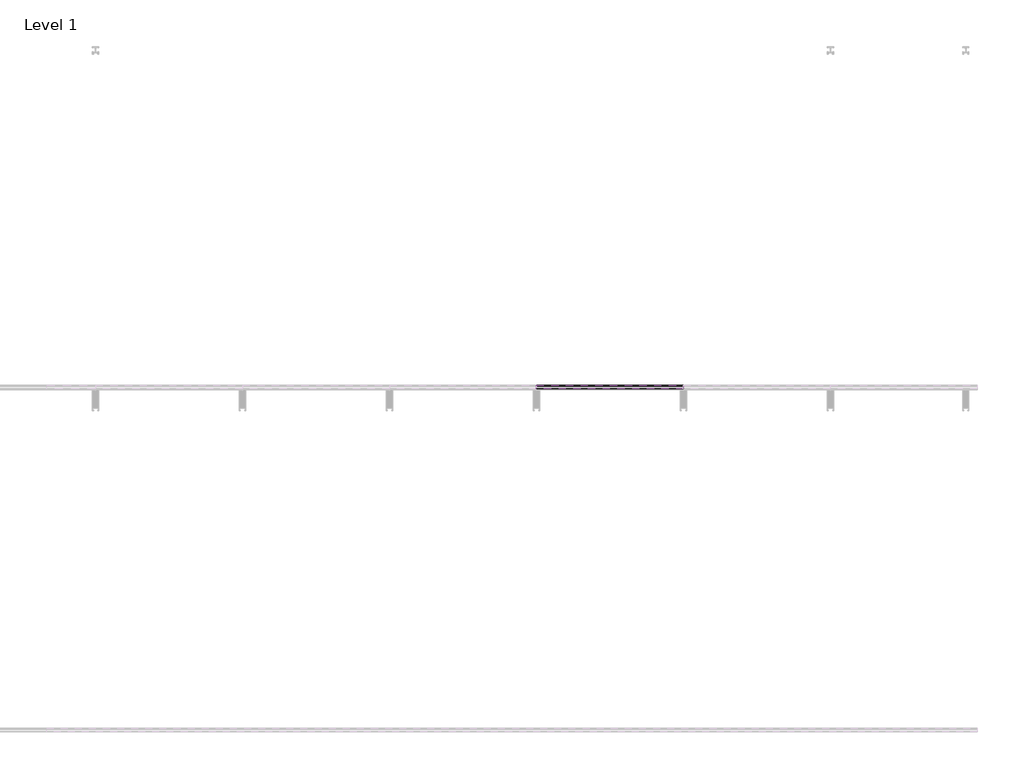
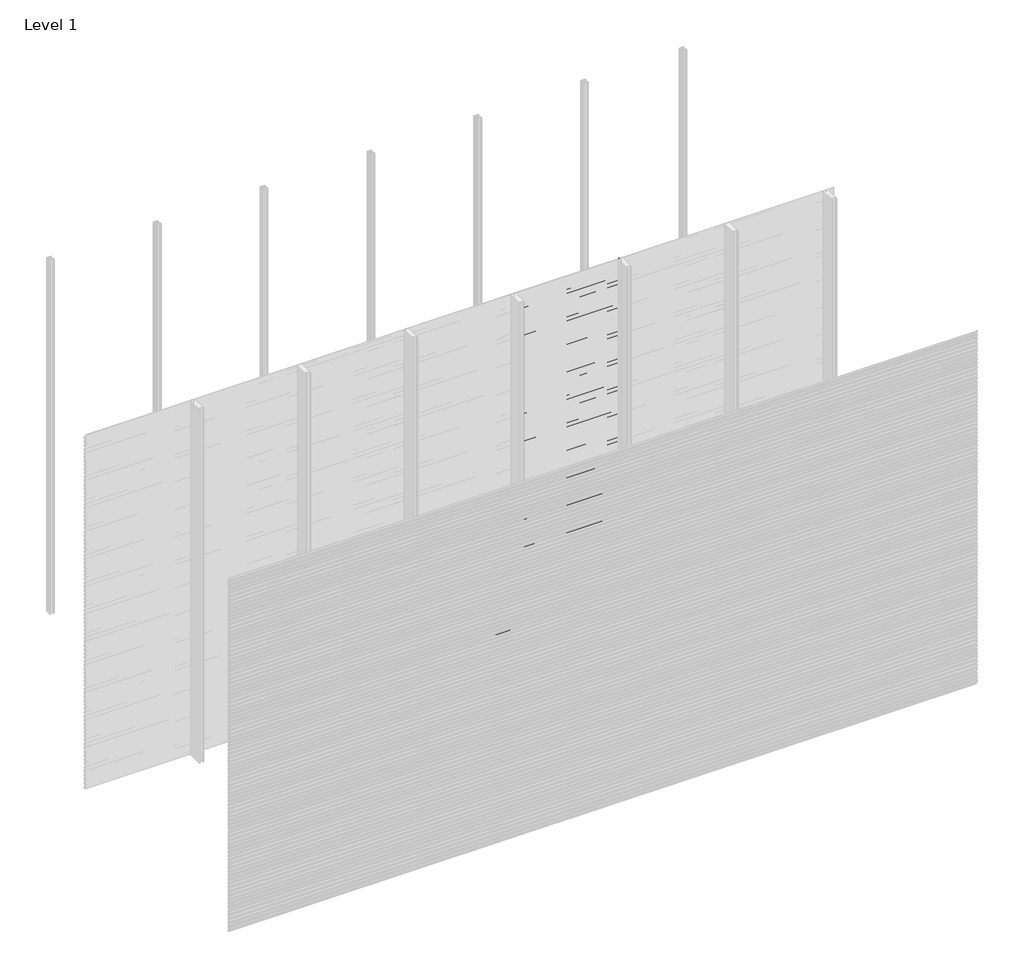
# One storey, part 19 of 96: 76 proxies.
"""IFC4 building model written with IfcOpenShell, lengths in millimetres."""

from ifc_helpers import new_model, si_unit, frame, origin, place, context, project, spatial, polyline, outline, extrude, element, save

model = new_model("IFC4")

# Units and contexts
model_context = context("Model", 3, world=origin())
ifc_project = project(units=[si_unit("LENGTHUNIT", "METRE", prefix="MILLI")], contexts=[model_context])

# Site, building, storey
site = spatial("IfcSite", under=ifc_project)
building = spatial("IfcBuilding", under=site)
storey = spatial("IfcBuildingStorey", under=building, Name="Level 1", Elevation=0.0)

# Proxies
placement = place(None, origin())
element("IfcBuildingElementProxy", 1, Name="Wall Sweeps", at=placement, inside=storey, context=model_context, shape_type="SweptSolid", body=[
    extrude(outline(polyline([(-47977.6, 141.2655033), (-47977.6, 126.9779188), (-47982.4114965, 124.2), (-47982.4114965, 125.4701706), (-47978.85, 127.5264016), (-47978.85, 140.5437382), (-47998.0, 151.6000799), (-47998.0, 166.5), (-47996.75, 166.5), (-47996.75, 152.3217609), (-47977.6, 141.2655033)])), frame((2571.4285714, 0.0, 0.0), z_axis=(1.0, 0.0, 0.0), x_axis=(0.0, 1.0, 0.0)), (0.0, 0.0, 1.0), 857.1428571),
])
element("IfcBuildingElementProxy", 2, Name="Wall Sweeps", at=placement, inside=storey, context=model_context, shape_type="SweptSolid", body=[
    extrude(outline(polyline([(-47977.6, 107.9655033), (-47977.6, 93.6779188), (-47982.4114965, 90.9), (-47982.4114965, 92.1701706), (-47978.85, 94.2264016), (-47978.85, 107.2437382), (-47998.0, 118.3000799), (-47998.0, 133.2), (-47996.75, 133.2), (-47996.75, 119.0217609), (-47977.6, 107.9655033)])), frame((2571.4285714, 0.0, 0.0), z_axis=(1.0, 0.0, 0.0), x_axis=(0.0, 1.0, 0.0)), (0.0, 0.0, 1.0), 857.1428571),
])
element("IfcBuildingElementProxy", 3, Name="Wall Sweeps", at=placement, inside=storey, context=model_context, shape_type="SweptSolid", body=[
    extrude(outline(polyline([(-47977.6, 74.6655033), (-47977.6, 60.3779188), (-47982.4114965, 57.6), (-47982.4114965, 58.8701706), (-47978.85, 60.9264016), (-47978.85, 73.9437382), (-47998.0, 85.0000799), (-47998.0, 99.9), (-47996.75, 99.9), (-47996.75, 85.7217609), (-47977.6, 74.6655033)])), frame((2571.4285714, 0.0, 0.0), z_axis=(1.0, 0.0, 0.0), x_axis=(0.0, 1.0, 0.0)), (0.0, 0.0, 1.0), 857.1428571),
])
element("IfcBuildingElementProxy", 4, Name="Wall Sweeps", at=placement, inside=storey, context=model_context, shape_type="SweptSolid", body=[
    extrude(outline(polyline([(-47977.6, 41.3655033), (-47977.6, 27.0779188), (-47982.4114965, 24.3), (-47982.4114965, 25.5701706), (-47978.85, 27.6264016), (-47978.85, 40.6437382), (-47998.0, 51.7000799), (-47998.0, 66.6), (-47996.75, 66.6), (-47996.75, 52.4217609), (-47977.6, 41.3655033)])), frame((2571.4285714, 0.0, 0.0), z_axis=(1.0, 0.0, 0.0), x_axis=(0.0, 1.0, 0.0)), (0.0, 0.0, 1.0), 857.1428571),
])
element("IfcBuildingElementProxy", 5, Name="Wall Sweeps", at=placement, inside=storey, context=model_context, shape_type="SweptSolid", body=[
    extrude(outline(polyline([(-47977.6, 8.0655033), (-47977.6, -6.2220812), (-47982.4114965, -9.0), (-47982.4114965, -7.7298294), (-47978.85, -5.6735984), (-47978.85, 7.3437382), (-47998.0, 18.4000799), (-47998.0, 33.3), (-47996.75, 33.3), (-47996.75, 19.1217609), (-47977.6, 8.0655033)])), frame((2571.4285714, 0.0, 0.0), z_axis=(1.0, 0.0, 0.0), x_axis=(0.0, 1.0, 0.0)), (0.0, 0.0, 1.0), 857.1428571),
])
element("IfcBuildingElementProxy", 6, Name="Wall Sweeps", at=placement, inside=storey, context=model_context, shape_type="SweptSolid", body=[
    extrude(outline(polyline([(-47977.6, 2971.7655033), (-47977.6, 2957.4779188), (-47982.4114965, 2954.7), (-47982.4114965, 2955.9701706), (-47978.85, 2958.0264016), (-47978.85, 2971.0437382), (-47998.0, 2982.1000799), (-47998.0, 2997.0), (-47996.75, 2997.0), (-47996.75, 2982.8217609), (-47977.6, 2971.7655033)])), frame((3428.5714286, 0.0, 0.0), z_axis=(1.0, 0.0, 0.0), x_axis=(0.0, 1.0, 0.0)), (0.0, 0.0, 1.0), 857.1428571),
])
element("IfcBuildingElementProxy", 7, Name="Wall Sweeps", at=placement, inside=storey, context=model_context, shape_type="SweptSolid", body=[
    extrude(outline(polyline([(-47977.6, 2938.4655033), (-47977.6, 2924.1779188), (-47982.4114965, 2921.4), (-47982.4114965, 2922.6701706), (-47978.85, 2924.7264016), (-47978.85, 2937.7437382), (-47998.0, 2948.8000799), (-47998.0, 2963.7), (-47996.75, 2963.7), (-47996.75, 2949.5217609), (-47977.6, 2938.4655033)])), frame((3428.5714286, 0.0, 0.0), z_axis=(1.0, 0.0, 0.0), x_axis=(0.0, 1.0, 0.0)), (0.0, 0.0, 1.0), 857.1428571),
])
element("IfcBuildingElementProxy", 8, Name="Wall Sweeps", at=placement, inside=storey, context=model_context, shape_type="SweptSolid", body=[
    extrude(outline(polyline([(-47977.6, 2905.1655033), (-47977.6, 2890.8779188), (-47982.4114965, 2888.1), (-47982.4114965, 2889.3701706), (-47978.85, 2891.4264016), (-47978.85, 2904.4437382), (-47998.0, 2915.5000799), (-47998.0, 2930.4), (-47996.75, 2930.4), (-47996.75, 2916.2217609), (-47977.6, 2905.1655033)])), frame((3428.5714286, 0.0, 0.0), z_axis=(1.0, 0.0, 0.0), x_axis=(0.0, 1.0, 0.0)), (0.0, 0.0, 1.0), 857.1428571),
])
element("IfcBuildingElementProxy", 9, Name="Wall Sweeps", at=placement, inside=storey, context=model_context, shape_type="SweptSolid", body=[
    extrude(outline(polyline([(-47977.6, 2871.8655033), (-47977.6, 2857.5779188), (-47982.4114965, 2854.8), (-47982.4114965, 2856.0701706), (-47978.85, 2858.1264016), (-47978.85, 2871.1437382), (-47998.0, 2882.2000799), (-47998.0, 2897.1), (-47996.75, 2897.1), (-47996.75, 2882.9217609), (-47977.6, 2871.8655033)])), frame((3428.5714286, 0.0, 0.0), z_axis=(1.0, 0.0, 0.0), x_axis=(0.0, 1.0, 0.0)), (0.0, 0.0, 1.0), 857.1428571),
])
element("IfcBuildingElementProxy", 10, Name="Wall Sweeps", at=placement, inside=storey, context=model_context, shape_type="SweptSolid", body=[
    extrude(outline(polyline([(-47977.6, 2838.5655033), (-47977.6, 2824.2779188), (-47982.4114965, 2821.5), (-47982.4114965, 2822.7701706), (-47978.85, 2824.8264016), (-47978.85, 2837.8437382), (-47998.0, 2848.9000799), (-47998.0, 2863.8), (-47996.75, 2863.8), (-47996.75, 2849.6217609), (-47977.6, 2838.5655033)])), frame((3428.5714286, 0.0, 0.0), z_axis=(1.0, 0.0, 0.0), x_axis=(0.0, 1.0, 0.0)), (0.0, 0.0, 1.0), 857.1428571),
])
element("IfcBuildingElementProxy", 11, Name="Wall Sweeps", at=placement, inside=storey, context=model_context, shape_type="SweptSolid", body=[
    extrude(outline(polyline([(-47977.6, 2805.2655033), (-47977.6, 2790.9779188), (-47982.4114965, 2788.2), (-47982.4114965, 2789.4701706), (-47978.85, 2791.5264016), (-47978.85, 2804.5437382), (-47998.0, 2815.6000799), (-47998.0, 2830.5), (-47996.75, 2830.5), (-47996.75, 2816.3217609), (-47977.6, 2805.2655033)])), frame((3428.5714286, 0.0, 0.0), z_axis=(1.0, 0.0, 0.0), x_axis=(0.0, 1.0, 0.0)), (0.0, 0.0, 1.0), 857.1428571),
])
element("IfcBuildingElementProxy", 12, Name="Wall Sweeps", at=placement, inside=storey, context=model_context, shape_type="SweptSolid", body=[
    extrude(outline(polyline([(-47977.6, 2771.9655033), (-47977.6, 2757.6779188), (-47982.4114965, 2754.9), (-47982.4114965, 2756.1701706), (-47978.85, 2758.2264016), (-47978.85, 2771.2437382), (-47998.0, 2782.3000799), (-47998.0, 2797.2), (-47996.75, 2797.2), (-47996.75, 2783.0217609), (-47977.6, 2771.9655033)])), frame((3428.5714286, 0.0, 0.0), z_axis=(1.0, 0.0, 0.0), x_axis=(0.0, 1.0, 0.0)), (0.0, 0.0, 1.0), 857.1428571),
])
element("IfcBuildingElementProxy", 13, Name="Wall Sweeps", at=placement, inside=storey, context=model_context, shape_type="SweptSolid", body=[
    extrude(outline(polyline([(-47977.6, 2738.6655033), (-47977.6, 2724.3779188), (-47982.4114965, 2721.6), (-47982.4114965, 2722.8701706), (-47978.85, 2724.9264016), (-47978.85, 2737.9437382), (-47998.0, 2749.0000799), (-47998.0, 2763.9), (-47996.75, 2763.9), (-47996.75, 2749.7217609), (-47977.6, 2738.6655033)])), frame((3428.5714286, 0.0, 0.0), z_axis=(1.0, 0.0, 0.0), x_axis=(0.0, 1.0, 0.0)), (0.0, 0.0, 1.0), 857.1428571),
])
element("IfcBuildingElementProxy", 14, Name="Wall Sweeps", at=placement, inside=storey, context=model_context, shape_type="SweptSolid", body=[
    extrude(outline(polyline([(-47977.6, 2705.3655033), (-47977.6, 2691.0779188), (-47982.4114965, 2688.3), (-47982.4114965, 2689.5701706), (-47978.85, 2691.6264016), (-47978.85, 2704.6437382), (-47998.0, 2715.7000799), (-47998.0, 2730.6), (-47996.75, 2730.6), (-47996.75, 2716.4217609), (-47977.6, 2705.3655033)])), frame((3428.5714286, 0.0, 0.0), z_axis=(1.0, 0.0, 0.0), x_axis=(0.0, 1.0, 0.0)), (0.0, 0.0, 1.0), 857.1428571),
])
element("IfcBuildingElementProxy", 15, Name="Wall Sweeps", at=placement, inside=storey, context=model_context, shape_type="SweptSolid", body=[
    extrude(outline(polyline([(-47977.6, 2672.0655033), (-47977.6, 2657.7779188), (-47982.4114965, 2655.0), (-47982.4114965, 2656.2701706), (-47978.85, 2658.3264016), (-47978.85, 2671.3437382), (-47998.0, 2682.4000799), (-47998.0, 2697.3), (-47996.75, 2697.3), (-47996.75, 2683.1217609), (-47977.6, 2672.0655033)])), frame((3428.5714286, 0.0, 0.0), z_axis=(1.0, 0.0, 0.0), x_axis=(0.0, 1.0, 0.0)), (0.0, 0.0, 1.0), 857.1428571),
])
element("IfcBuildingElementProxy", 16, Name="Wall Sweeps", at=placement, inside=storey, context=model_context, shape_type="SweptSolid", body=[
    extrude(outline(polyline([(-47977.6, 2638.7655033), (-47977.6, 2624.4779188), (-47982.4114965, 2621.7), (-47982.4114965, 2622.9701706), (-47978.85, 2625.0264016), (-47978.85, 2638.0437382), (-47998.0, 2649.1000799), (-47998.0, 2664.0), (-47996.75, 2664.0), (-47996.75, 2649.8217609), (-47977.6, 2638.7655033)])), frame((3428.5714286, 0.0, 0.0), z_axis=(1.0, 0.0, 0.0), x_axis=(0.0, 1.0, 0.0)), (0.0, 0.0, 1.0), 857.1428571),
])
element("IfcBuildingElementProxy", 17, Name="Wall Sweeps", at=placement, inside=storey, context=model_context, shape_type="SweptSolid", body=[
    extrude(outline(polyline([(-47977.6, 2605.4655033), (-47977.6, 2591.1779188), (-47982.4114965, 2588.4), (-47982.4114965, 2589.6701706), (-47978.85, 2591.7264016), (-47978.85, 2604.7437382), (-47998.0, 2615.8000799), (-47998.0, 2630.7), (-47996.75, 2630.7), (-47996.75, 2616.5217609), (-47977.6, 2605.4655033)])), frame((3428.5714286, 0.0, 0.0), z_axis=(1.0, 0.0, 0.0), x_axis=(0.0, 1.0, 0.0)), (0.0, 0.0, 1.0), 857.1428571),
])
element("IfcBuildingElementProxy", 18, Name="Wall Sweeps", at=placement, inside=storey, context=model_context, shape_type="SweptSolid", body=[
    extrude(outline(polyline([(-47977.6, 2572.1655033), (-47977.6, 2557.8779188), (-47982.4114965, 2555.1), (-47982.4114965, 2556.3701706), (-47978.85, 2558.4264016), (-47978.85, 2571.4437382), (-47998.0, 2582.5000799), (-47998.0, 2597.4), (-47996.75, 2597.4), (-47996.75, 2583.2217609), (-47977.6, 2572.1655033)])), frame((3428.5714286, 0.0, 0.0), z_axis=(1.0, 0.0, 0.0), x_axis=(0.0, 1.0, 0.0)), (0.0, 0.0, 1.0), 857.1428571),
])
element("IfcBuildingElementProxy", 19, Name="Wall Sweeps", at=placement, inside=storey, context=model_context, shape_type="SweptSolid", body=[
    extrude(outline(polyline([(-47977.6, 2538.8655033), (-47977.6, 2524.5779188), (-47982.4114965, 2521.8), (-47982.4114965, 2523.0701706), (-47978.85, 2525.1264016), (-47978.85, 2538.1437382), (-47998.0, 2549.2000799), (-47998.0, 2564.1), (-47996.75, 2564.1), (-47996.75, 2549.9217609), (-47977.6, 2538.8655033)])), frame((3428.5714286, 0.0, 0.0), z_axis=(1.0, 0.0, 0.0), x_axis=(0.0, 1.0, 0.0)), (0.0, 0.0, 1.0), 857.1428571),
])
element("IfcBuildingElementProxy", 20, Name="Wall Sweeps", at=placement, inside=storey, context=model_context, shape_type="SweptSolid", body=[
    extrude(outline(polyline([(-47977.6, 2505.5655033), (-47977.6, 2491.2779188), (-47982.4114965, 2488.5), (-47982.4114965, 2489.7701706), (-47978.85, 2491.8264016), (-47978.85, 2504.8437382), (-47998.0, 2515.9000799), (-47998.0, 2530.8), (-47996.75, 2530.8), (-47996.75, 2516.6217609), (-47977.6, 2505.5655033)])), frame((3428.5714286, 0.0, 0.0), z_axis=(1.0, 0.0, 0.0), x_axis=(0.0, 1.0, 0.0)), (0.0, 0.0, 1.0), 857.1428571),
])
element("IfcBuildingElementProxy", 21, Name="Wall Sweeps", at=placement, inside=storey, context=model_context, shape_type="SweptSolid", body=[
    extrude(outline(polyline([(-47977.6, 2472.2655033), (-47977.6, 2457.9779188), (-47982.4114965, 2455.2), (-47982.4114965, 2456.4701706), (-47978.85, 2458.5264016), (-47978.85, 2471.5437382), (-47998.0, 2482.6000799), (-47998.0, 2497.5), (-47996.75, 2497.5), (-47996.75, 2483.3217609), (-47977.6, 2472.2655033)])), frame((3428.5714286, 0.0, 0.0), z_axis=(1.0, 0.0, 0.0), x_axis=(0.0, 1.0, 0.0)), (0.0, 0.0, 1.0), 857.1428571),
])
element("IfcBuildingElementProxy", 22, Name="Wall Sweeps", at=placement, inside=storey, context=model_context, shape_type="SweptSolid", body=[
    extrude(outline(polyline([(-47977.6, 2438.9655033), (-47977.6, 2424.6779188), (-47982.4114965, 2421.9), (-47982.4114965, 2423.1701706), (-47978.85, 2425.2264016), (-47978.85, 2438.2437382), (-47998.0, 2449.3000799), (-47998.0, 2464.2), (-47996.75, 2464.2), (-47996.75, 2450.0217609), (-47977.6, 2438.9655033)])), frame((3428.5714286, 0.0, 0.0), z_axis=(1.0, 0.0, 0.0), x_axis=(0.0, 1.0, 0.0)), (0.0, 0.0, 1.0), 857.1428571),
])
element("IfcBuildingElementProxy", 23, Name="Wall Sweeps", at=placement, inside=storey, context=model_context, shape_type="SweptSolid", body=[
    extrude(outline(polyline([(-47977.6, 2405.6655033), (-47977.6, 2391.3779188), (-47982.4114965, 2388.6), (-47982.4114965, 2389.8701706), (-47978.85, 2391.9264016), (-47978.85, 2404.9437382), (-47998.0, 2416.0000799), (-47998.0, 2430.9), (-47996.75, 2430.9), (-47996.75, 2416.7217609), (-47977.6, 2405.6655033)])), frame((3428.5714286, 0.0, 0.0), z_axis=(1.0, 0.0, 0.0), x_axis=(0.0, 1.0, 0.0)), (0.0, 0.0, 1.0), 857.1428571),
])
element("IfcBuildingElementProxy", 24, Name="Wall Sweeps", at=placement, inside=storey, context=model_context, shape_type="SweptSolid", body=[
    extrude(outline(polyline([(-47977.6, 2372.3655033), (-47977.6, 2358.0779188), (-47982.4114965, 2355.3), (-47982.4114965, 2356.5701706), (-47978.85, 2358.6264016), (-47978.85, 2371.6437382), (-47998.0, 2382.7000799), (-47998.0, 2397.6), (-47996.75, 2397.6), (-47996.75, 2383.4217609), (-47977.6, 2372.3655033)])), frame((3428.5714286, 0.0, 0.0), z_axis=(1.0, 0.0, 0.0), x_axis=(0.0, 1.0, 0.0)), (0.0, 0.0, 1.0), 857.1428571),
])
element("IfcBuildingElementProxy", 25, Name="Wall Sweeps", at=placement, inside=storey, context=model_context, shape_type="SweptSolid", body=[
    extrude(outline(polyline([(-47977.6, 2339.0655033), (-47977.6, 2324.7779188), (-47982.4114965, 2322.0), (-47982.4114965, 2323.2701706), (-47978.85, 2325.3264016), (-47978.85, 2338.3437382), (-47998.0, 2349.4000799), (-47998.0, 2364.3), (-47996.75, 2364.3), (-47996.75, 2350.1217609), (-47977.6, 2339.0655033)])), frame((3428.5714286, 0.0, 0.0), z_axis=(1.0, 0.0, 0.0), x_axis=(0.0, 1.0, 0.0)), (0.0, 0.0, 1.0), 857.1428571),
])
element("IfcBuildingElementProxy", 26, Name="Wall Sweeps", at=placement, inside=storey, context=model_context, shape_type="SweptSolid", body=[
    extrude(outline(polyline([(-47977.6, 2305.7655033), (-47977.6, 2291.4779188), (-47982.4114965, 2288.7), (-47982.4114965, 2289.9701706), (-47978.85, 2292.0264016), (-47978.85, 2305.0437382), (-47998.0, 2316.1000799), (-47998.0, 2331.0), (-47996.75, 2331.0), (-47996.75, 2316.8217609), (-47977.6, 2305.7655033)])), frame((3428.5714286, 0.0, 0.0), z_axis=(1.0, 0.0, 0.0), x_axis=(0.0, 1.0, 0.0)), (0.0, 0.0, 1.0), 857.1428571),
])
element("IfcBuildingElementProxy", 27, Name="Wall Sweeps", at=placement, inside=storey, context=model_context, shape_type="SweptSolid", body=[
    extrude(outline(polyline([(-47977.6, 2272.4655033), (-47977.6, 2258.1779188), (-47982.4114965, 2255.4), (-47982.4114965, 2256.6701706), (-47978.85, 2258.7264016), (-47978.85, 2271.7437382), (-47998.0, 2282.8000799), (-47998.0, 2297.7), (-47996.75, 2297.7), (-47996.75, 2283.5217609), (-47977.6, 2272.4655033)])), frame((3428.5714286, 0.0, 0.0), z_axis=(1.0, 0.0, 0.0), x_axis=(0.0, 1.0, 0.0)), (0.0, 0.0, 1.0), 857.1428571),
])
element("IfcBuildingElementProxy", 28, Name="Wall Sweeps", at=placement, inside=storey, context=model_context, shape_type="SweptSolid", body=[
    extrude(outline(polyline([(-47977.6, 2239.1655033), (-47977.6, 2224.8779188), (-47982.4114965, 2222.1), (-47982.4114965, 2223.3701706), (-47978.85, 2225.4264016), (-47978.85, 2238.4437382), (-47998.0, 2249.5000799), (-47998.0, 2264.4), (-47996.75, 2264.4), (-47996.75, 2250.2217609), (-47977.6, 2239.1655033)])), frame((3428.5714286, 0.0, 0.0), z_axis=(1.0, 0.0, 0.0), x_axis=(0.0, 1.0, 0.0)), (0.0, 0.0, 1.0), 857.1428571),
])
element("IfcBuildingElementProxy", 29, Name="Wall Sweeps", at=placement, inside=storey, context=model_context, shape_type="SweptSolid", body=[
    extrude(outline(polyline([(-47977.6, 2205.8655033), (-47977.6, 2191.5779188), (-47982.4114965, 2188.8), (-47982.4114965, 2190.0701706), (-47978.85, 2192.1264016), (-47978.85, 2205.1437382), (-47998.0, 2216.2000799), (-47998.0, 2231.1), (-47996.75, 2231.1), (-47996.75, 2216.9217609), (-47977.6, 2205.8655033)])), frame((3428.5714286, 0.0, 0.0), z_axis=(1.0, 0.0, 0.0), x_axis=(0.0, 1.0, 0.0)), (0.0, 0.0, 1.0), 857.1428571),
])
element("IfcBuildingElementProxy", 30, Name="Wall Sweeps", at=placement, inside=storey, context=model_context, shape_type="SweptSolid", body=[
    extrude(outline(polyline([(-47977.6, 2172.5655033), (-47977.6, 2158.2779188), (-47982.4114965, 2155.5), (-47982.4114965, 2156.7701706), (-47978.85, 2158.8264016), (-47978.85, 2171.8437382), (-47998.0, 2182.9000799), (-47998.0, 2197.8), (-47996.75, 2197.8), (-47996.75, 2183.6217609), (-47977.6, 2172.5655033)])), frame((3428.5714286, 0.0, 0.0), z_axis=(1.0, 0.0, 0.0), x_axis=(0.0, 1.0, 0.0)), (0.0, 0.0, 1.0), 857.1428571),
])
element("IfcBuildingElementProxy", 31, Name="Wall Sweeps", at=placement, inside=storey, context=model_context, shape_type="SweptSolid", body=[
    extrude(outline(polyline([(-47977.6, 2139.2655033), (-47977.6, 2124.9779188), (-47982.4114965, 2122.2), (-47982.4114965, 2123.4701706), (-47978.85, 2125.5264016), (-47978.85, 2138.5437382), (-47998.0, 2149.6000799), (-47998.0, 2164.5), (-47996.75, 2164.5), (-47996.75, 2150.3217609), (-47977.6, 2139.2655033)])), frame((3428.5714286, 0.0, 0.0), z_axis=(1.0, 0.0, 0.0), x_axis=(0.0, 1.0, 0.0)), (0.0, 0.0, 1.0), 857.1428571),
])
element("IfcBuildingElementProxy", 32, Name="Wall Sweeps", at=placement, inside=storey, context=model_context, shape_type="SweptSolid", body=[
    extrude(outline(polyline([(-47977.6, 2105.9655033), (-47977.6, 2091.6779188), (-47982.4114965, 2088.9), (-47982.4114965, 2090.1701706), (-47978.85, 2092.2264016), (-47978.85, 2105.2437382), (-47998.0, 2116.3000799), (-47998.0, 2131.2), (-47996.75, 2131.2), (-47996.75, 2117.0217609), (-47977.6, 2105.9655033)])), frame((3428.5714286, 0.0, 0.0), z_axis=(1.0, 0.0, 0.0), x_axis=(0.0, 1.0, 0.0)), (0.0, 0.0, 1.0), 857.1428571),
])
element("IfcBuildingElementProxy", 33, Name="Wall Sweeps", at=placement, inside=storey, context=model_context, shape_type="SweptSolid", body=[
    extrude(outline(polyline([(-47977.6, 2072.6655033), (-47977.6, 2058.3779188), (-47982.4114965, 2055.6), (-47982.4114965, 2056.8701706), (-47978.85, 2058.9264016), (-47978.85, 2071.9437382), (-47998.0, 2083.0000799), (-47998.0, 2097.9), (-47996.75, 2097.9), (-47996.75, 2083.7217609), (-47977.6, 2072.6655033)])), frame((3428.5714286, 0.0, 0.0), z_axis=(1.0, 0.0, 0.0), x_axis=(0.0, 1.0, 0.0)), (0.0, 0.0, 1.0), 857.1428571),
])
element("IfcBuildingElementProxy", 34, Name="Wall Sweeps", at=placement, inside=storey, context=model_context, shape_type="SweptSolid", body=[
    extrude(outline(polyline([(-47977.6, 2039.3655033), (-47977.6, 2025.0779188), (-47982.4114965, 2022.3), (-47982.4114965, 2023.5701706), (-47978.85, 2025.6264016), (-47978.85, 2038.6437382), (-47998.0, 2049.7000799), (-47998.0, 2064.6), (-47996.75, 2064.6), (-47996.75, 2050.4217609), (-47977.6, 2039.3655033)])), frame((3428.5714286, 0.0, 0.0), z_axis=(1.0, 0.0, 0.0), x_axis=(0.0, 1.0, 0.0)), (0.0, 0.0, 1.0), 857.1428571),
])
element("IfcBuildingElementProxy", 35, Name="Wall Sweeps", at=placement, inside=storey, context=model_context, shape_type="SweptSolid", body=[
    extrude(outline(polyline([(-47977.6, 2006.0655033), (-47977.6, 1991.7779188), (-47982.4114965, 1989.0), (-47982.4114965, 1990.2701706), (-47978.85, 1992.3264016), (-47978.85, 2005.3437382), (-47998.0, 2016.4000799), (-47998.0, 2031.3), (-47996.75, 2031.3), (-47996.75, 2017.1217609), (-47977.6, 2006.0655033)])), frame((3428.5714286, 0.0, 0.0), z_axis=(1.0, 0.0, 0.0), x_axis=(0.0, 1.0, 0.0)), (0.0, 0.0, 1.0), 857.1428571),
])
element("IfcBuildingElementProxy", 36, Name="Wall Sweeps", at=placement, inside=storey, context=model_context, shape_type="SweptSolid", body=[
    extrude(outline(polyline([(-47977.6, 1972.7655033), (-47977.6, 1958.4779188), (-47982.4114965, 1955.7), (-47982.4114965, 1956.9701706), (-47978.85, 1959.0264016), (-47978.85, 1972.0437382), (-47998.0, 1983.1000799), (-47998.0, 1998.0), (-47996.75, 1998.0), (-47996.75, 1983.8217609), (-47977.6, 1972.7655033)])), frame((3428.5714286, 0.0, 0.0), z_axis=(1.0, 0.0, 0.0), x_axis=(0.0, 1.0, 0.0)), (0.0, 0.0, 1.0), 857.1428571),
])
element("IfcBuildingElementProxy", 37, Name="Wall Sweeps", at=placement, inside=storey, context=model_context, shape_type="SweptSolid", body=[
    extrude(outline(polyline([(-47977.6, 1939.4655033), (-47977.6, 1925.1779188), (-47982.4114965, 1922.4), (-47982.4114965, 1923.6701706), (-47978.85, 1925.7264016), (-47978.85, 1938.7437382), (-47998.0, 1949.8000799), (-47998.0, 1964.7), (-47996.75, 1964.7), (-47996.75, 1950.5217609), (-47977.6, 1939.4655033)])), frame((3428.5714286, 0.0, 0.0), z_axis=(1.0, 0.0, 0.0), x_axis=(0.0, 1.0, 0.0)), (0.0, 0.0, 1.0), 857.1428571),
])
element("IfcBuildingElementProxy", 38, Name="Wall Sweeps", at=placement, inside=storey, context=model_context, shape_type="SweptSolid", body=[
    extrude(outline(polyline([(-47977.6, 1906.1655033), (-47977.6, 1891.8779188), (-47982.4114965, 1889.1), (-47982.4114965, 1890.3701706), (-47978.85, 1892.4264016), (-47978.85, 1905.4437382), (-47998.0, 1916.5000799), (-47998.0, 1931.4), (-47996.75, 1931.4), (-47996.75, 1917.2217609), (-47977.6, 1906.1655033)])), frame((3428.5714286, 0.0, 0.0), z_axis=(1.0, 0.0, 0.0), x_axis=(0.0, 1.0, 0.0)), (0.0, 0.0, 1.0), 857.1428571),
])
element("IfcBuildingElementProxy", 39, Name="Wall Sweeps", at=placement, inside=storey, context=model_context, shape_type="SweptSolid", body=[
    extrude(outline(polyline([(-47977.6, 1872.8655033), (-47977.6, 1858.5779188), (-47982.4114965, 1855.8), (-47982.4114965, 1857.0701706), (-47978.85, 1859.1264016), (-47978.85, 1872.1437382), (-47998.0, 1883.2000799), (-47998.0, 1898.1), (-47996.75, 1898.1), (-47996.75, 1883.9217609), (-47977.6, 1872.8655033)])), frame((3428.5714286, 0.0, 0.0), z_axis=(1.0, 0.0, 0.0), x_axis=(0.0, 1.0, 0.0)), (0.0, 0.0, 1.0), 857.1428571),
])
element("IfcBuildingElementProxy", 40, Name="Wall Sweeps", at=placement, inside=storey, context=model_context, shape_type="SweptSolid", body=[
    extrude(outline(polyline([(-47977.6, 1839.5655033), (-47977.6, 1825.2779188), (-47982.4114965, 1822.5), (-47982.4114965, 1823.7701706), (-47978.85, 1825.8264016), (-47978.85, 1838.8437382), (-47998.0, 1849.9000799), (-47998.0, 1864.8), (-47996.75, 1864.8), (-47996.75, 1850.6217609), (-47977.6, 1839.5655033)])), frame((3428.5714286, 0.0, 0.0), z_axis=(1.0, 0.0, 0.0), x_axis=(0.0, 1.0, 0.0)), (0.0, 0.0, 1.0), 857.1428571),
])
element("IfcBuildingElementProxy", 41, Name="Wall Sweeps", at=placement, inside=storey, context=model_context, shape_type="SweptSolid", body=[
    extrude(outline(polyline([(-47977.6, 1806.2655033), (-47977.6, 1791.9779188), (-47982.4114965, 1789.2), (-47982.4114965, 1790.4701706), (-47978.85, 1792.5264016), (-47978.85, 1805.5437382), (-47998.0, 1816.6000799), (-47998.0, 1831.5), (-47996.75, 1831.5), (-47996.75, 1817.3217609), (-47977.6, 1806.2655033)])), frame((3428.5714286, 0.0, 0.0), z_axis=(1.0, 0.0, 0.0), x_axis=(0.0, 1.0, 0.0)), (0.0, 0.0, 1.0), 857.1428571),
])
element("IfcBuildingElementProxy", 42, Name="Wall Sweeps", at=placement, inside=storey, context=model_context, shape_type="SweptSolid", body=[
    extrude(outline(polyline([(-47977.6, 1772.9655033), (-47977.6, 1758.6779188), (-47982.4114965, 1755.9), (-47982.4114965, 1757.1701706), (-47978.85, 1759.2264016), (-47978.85, 1772.2437382), (-47998.0, 1783.3000799), (-47998.0, 1798.2), (-47996.75, 1798.2), (-47996.75, 1784.0217609), (-47977.6, 1772.9655033)])), frame((3428.5714286, 0.0, 0.0), z_axis=(1.0, 0.0, 0.0), x_axis=(0.0, 1.0, 0.0)), (0.0, 0.0, 1.0), 857.1428571),
])
element("IfcBuildingElementProxy", 43, Name="Wall Sweeps", at=placement, inside=storey, context=model_context, shape_type="SweptSolid", body=[
    extrude(outline(polyline([(-47977.6, 1739.6655033), (-47977.6, 1725.3779188), (-47982.4114965, 1722.6), (-47982.4114965, 1723.8701706), (-47978.85, 1725.9264016), (-47978.85, 1738.9437382), (-47998.0, 1750.0000799), (-47998.0, 1764.9), (-47996.75, 1764.9), (-47996.75, 1750.7217609), (-47977.6, 1739.6655033)])), frame((3428.5714286, 0.0, 0.0), z_axis=(1.0, 0.0, 0.0), x_axis=(0.0, 1.0, 0.0)), (0.0, 0.0, 1.0), 857.1428571),
])
element("IfcBuildingElementProxy", 44, Name="Wall Sweeps", at=placement, inside=storey, context=model_context, shape_type="SweptSolid", body=[
    extrude(outline(polyline([(-47977.6, 1706.3655033), (-47977.6, 1692.0779188), (-47982.4114965, 1689.3), (-47982.4114965, 1690.5701706), (-47978.85, 1692.6264016), (-47978.85, 1705.6437382), (-47998.0, 1716.7000799), (-47998.0, 1731.6), (-47996.75, 1731.6), (-47996.75, 1717.4217609), (-47977.6, 1706.3655033)])), frame((3428.5714286, 0.0, 0.0), z_axis=(1.0, 0.0, 0.0), x_axis=(0.0, 1.0, 0.0)), (0.0, 0.0, 1.0), 857.1428571),
])
element("IfcBuildingElementProxy", 45, Name="Wall Sweeps", at=placement, inside=storey, context=model_context, shape_type="SweptSolid", body=[
    extrude(outline(polyline([(-47977.6, 1673.0655033), (-47977.6, 1658.7779188), (-47982.4114965, 1656.0), (-47982.4114965, 1657.2701706), (-47978.85, 1659.3264016), (-47978.85, 1672.3437382), (-47998.0, 1683.4000799), (-47998.0, 1698.3), (-47996.75, 1698.3), (-47996.75, 1684.1217609), (-47977.6, 1673.0655033)])), frame((3428.5714286, 0.0, 0.0), z_axis=(1.0, 0.0, 0.0), x_axis=(0.0, 1.0, 0.0)), (0.0, 0.0, 1.0), 857.1428571),
])
element("IfcBuildingElementProxy", 46, Name="Wall Sweeps", at=placement, inside=storey, context=model_context, shape_type="SweptSolid", body=[
    extrude(outline(polyline([(-47977.6, 1639.7655033), (-47977.6, 1625.4779188), (-47982.4114965, 1622.7), (-47982.4114965, 1623.9701706), (-47978.85, 1626.0264016), (-47978.85, 1639.0437382), (-47998.0, 1650.1000799), (-47998.0, 1665.0), (-47996.75, 1665.0), (-47996.75, 1650.8217609), (-47977.6, 1639.7655033)])), frame((3428.5714286, 0.0, 0.0), z_axis=(1.0, 0.0, 0.0), x_axis=(0.0, 1.0, 0.0)), (0.0, 0.0, 1.0), 857.1428571),
])
element("IfcBuildingElementProxy", 47, Name="Wall Sweeps", at=placement, inside=storey, context=model_context, shape_type="SweptSolid", body=[
    extrude(outline(polyline([(-47977.6, 1606.4655033), (-47977.6, 1592.1779188), (-47982.4114965, 1589.4), (-47982.4114965, 1590.6701706), (-47978.85, 1592.7264016), (-47978.85, 1605.7437382), (-47998.0, 1616.8000799), (-47998.0, 1631.7), (-47996.75, 1631.7), (-47996.75, 1617.5217609), (-47977.6, 1606.4655033)])), frame((3428.5714286, 0.0, 0.0), z_axis=(1.0, 0.0, 0.0), x_axis=(0.0, 1.0, 0.0)), (0.0, 0.0, 1.0), 857.1428571),
])
element("IfcBuildingElementProxy", 48, Name="Wall Sweeps", at=placement, inside=storey, context=model_context, shape_type="SweptSolid", body=[
    extrude(outline(polyline([(-47977.6, 1573.1655033), (-47977.6, 1558.8779188), (-47982.4114965, 1556.1), (-47982.4114965, 1557.3701706), (-47978.85, 1559.4264016), (-47978.85, 1572.4437382), (-47998.0, 1583.5000799), (-47998.0, 1598.4), (-47996.75, 1598.4), (-47996.75, 1584.2217609), (-47977.6, 1573.1655033)])), frame((3428.5714286, 0.0, 0.0), z_axis=(1.0, 0.0, 0.0), x_axis=(0.0, 1.0, 0.0)), (0.0, 0.0, 1.0), 857.1428571),
])
element("IfcBuildingElementProxy", 49, Name="Wall Sweeps", at=placement, inside=storey, context=model_context, shape_type="SweptSolid", body=[
    extrude(outline(polyline([(-47977.6, 1539.8655033), (-47977.6, 1525.5779188), (-47982.4114965, 1522.8), (-47982.4114965, 1524.0701706), (-47978.85, 1526.1264016), (-47978.85, 1539.1437382), (-47998.0, 1550.2000799), (-47998.0, 1565.1), (-47996.75, 1565.1), (-47996.75, 1550.9217609), (-47977.6, 1539.8655033)])), frame((3428.5714286, 0.0, 0.0), z_axis=(1.0, 0.0, 0.0), x_axis=(0.0, 1.0, 0.0)), (0.0, 0.0, 1.0), 857.1428571),
])
element("IfcBuildingElementProxy", 50, Name="Wall Sweeps", at=placement, inside=storey, context=model_context, shape_type="SweptSolid", body=[
    extrude(outline(polyline([(-47977.6, 1506.5655033), (-47977.6, 1492.2779188), (-47982.4114965, 1489.5), (-47982.4114965, 1490.7701706), (-47978.85, 1492.8264016), (-47978.85, 1505.8437382), (-47998.0, 1516.9000799), (-47998.0, 1531.8), (-47996.75, 1531.8), (-47996.75, 1517.6217609), (-47977.6, 1506.5655033)])), frame((3428.5714286, 0.0, 0.0), z_axis=(1.0, 0.0, 0.0), x_axis=(0.0, 1.0, 0.0)), (0.0, 0.0, 1.0), 857.1428571),
])
element("IfcBuildingElementProxy", 51, Name="Wall Sweeps", at=placement, inside=storey, context=model_context, shape_type="SweptSolid", body=[
    extrude(outline(polyline([(-47977.6, 1473.2655033), (-47977.6, 1458.9779188), (-47982.4114965, 1456.2), (-47982.4114965, 1457.4701706), (-47978.85, 1459.5264016), (-47978.85, 1472.5437382), (-47998.0, 1483.6000799), (-47998.0, 1498.5), (-47996.75, 1498.5), (-47996.75, 1484.3217609), (-47977.6, 1473.2655033)])), frame((3428.5714286, 0.0, 0.0), z_axis=(1.0, 0.0, 0.0), x_axis=(0.0, 1.0, 0.0)), (0.0, 0.0, 1.0), 857.1428571),
])
element("IfcBuildingElementProxy", 52, Name="Wall Sweeps", at=placement, inside=storey, context=model_context, shape_type="SweptSolid", body=[
    extrude(outline(polyline([(-47977.6, 1439.9655033), (-47977.6, 1425.6779188), (-47982.4114965, 1422.9), (-47982.4114965, 1424.1701706), (-47978.85, 1426.2264016), (-47978.85, 1439.2437382), (-47998.0, 1450.3000799), (-47998.0, 1465.2), (-47996.75, 1465.2), (-47996.75, 1451.0217609), (-47977.6, 1439.9655033)])), frame((3428.5714286, 0.0, 0.0), z_axis=(1.0, 0.0, 0.0), x_axis=(0.0, 1.0, 0.0)), (0.0, 0.0, 1.0), 857.1428571),
])
element("IfcBuildingElementProxy", 53, Name="Wall Sweeps", at=placement, inside=storey, context=model_context, shape_type="SweptSolid", body=[
    extrude(outline(polyline([(-47977.6, 1406.6655033), (-47977.6, 1392.3779188), (-47982.4114965, 1389.6), (-47982.4114965, 1390.8701706), (-47978.85, 1392.9264016), (-47978.85, 1405.9437382), (-47998.0, 1417.0000799), (-47998.0, 1431.9), (-47996.75, 1431.9), (-47996.75, 1417.7217609), (-47977.6, 1406.6655033)])), frame((3428.5714286, 0.0, 0.0), z_axis=(1.0, 0.0, 0.0), x_axis=(0.0, 1.0, 0.0)), (0.0, 0.0, 1.0), 857.1428571),
])
element("IfcBuildingElementProxy", 54, Name="Wall Sweeps", at=placement, inside=storey, context=model_context, shape_type="SweptSolid", body=[
    extrude(outline(polyline([(-47977.6, 1373.3655033), (-47977.6, 1359.0779188), (-47982.4114965, 1356.3), (-47982.4114965, 1357.5701706), (-47978.85, 1359.6264016), (-47978.85, 1372.6437382), (-47998.0, 1383.7000799), (-47998.0, 1398.6), (-47996.75, 1398.6), (-47996.75, 1384.4217609), (-47977.6, 1373.3655033)])), frame((3428.5714286, 0.0, 0.0), z_axis=(1.0, 0.0, 0.0), x_axis=(0.0, 1.0, 0.0)), (0.0, 0.0, 1.0), 857.1428571),
])
element("IfcBuildingElementProxy", 55, Name="Wall Sweeps", at=placement, inside=storey, context=model_context, shape_type="SweptSolid", body=[
    extrude(outline(polyline([(-47977.6, 1340.0655033), (-47977.6, 1325.7779188), (-47982.4114965, 1323.0), (-47982.4114965, 1324.2701706), (-47978.85, 1326.3264016), (-47978.85, 1339.3437382), (-47998.0, 1350.4000799), (-47998.0, 1365.3), (-47996.75, 1365.3), (-47996.75, 1351.1217609), (-47977.6, 1340.0655033)])), frame((3428.5714286, 0.0, 0.0), z_axis=(1.0, 0.0, 0.0), x_axis=(0.0, 1.0, 0.0)), (0.0, 0.0, 1.0), 857.1428571),
])
element("IfcBuildingElementProxy", 56, Name="Wall Sweeps", at=placement, inside=storey, context=model_context, shape_type="SweptSolid", body=[
    extrude(outline(polyline([(-47977.6, 1306.7655033), (-47977.6, 1292.4779188), (-47982.4114965, 1289.7), (-47982.4114965, 1290.9701706), (-47978.85, 1293.0264016), (-47978.85, 1306.0437382), (-47998.0, 1317.1000799), (-47998.0, 1332.0), (-47996.75, 1332.0), (-47996.75, 1317.8217609), (-47977.6, 1306.7655033)])), frame((3428.5714286, 0.0, 0.0), z_axis=(1.0, 0.0, 0.0), x_axis=(0.0, 1.0, 0.0)), (0.0, 0.0, 1.0), 857.1428571),
])
element("IfcBuildingElementProxy", 57, Name="Wall Sweeps", at=placement, inside=storey, context=model_context, shape_type="SweptSolid", body=[
    extrude(outline(polyline([(-47977.6, 1273.4655033), (-47977.6, 1259.1779188), (-47982.4114965, 1256.4), (-47982.4114965, 1257.6701706), (-47978.85, 1259.7264016), (-47978.85, 1272.7437382), (-47998.0, 1283.8000799), (-47998.0, 1298.7), (-47996.75, 1298.7), (-47996.75, 1284.5217609), (-47977.6, 1273.4655033)])), frame((3428.5714286, 0.0, 0.0), z_axis=(1.0, 0.0, 0.0), x_axis=(0.0, 1.0, 0.0)), (0.0, 0.0, 1.0), 857.1428571),
])
element("IfcBuildingElementProxy", 58, Name="Wall Sweeps", at=placement, inside=storey, context=model_context, shape_type="SweptSolid", body=[
    extrude(outline(polyline([(-47977.6, 1240.1655033), (-47977.6, 1225.8779188), (-47982.4114965, 1223.1), (-47982.4114965, 1224.3701706), (-47978.85, 1226.4264016), (-47978.85, 1239.4437382), (-47998.0, 1250.5000799), (-47998.0, 1265.4), (-47996.75, 1265.4), (-47996.75, 1251.2217609), (-47977.6, 1240.1655033)])), frame((3428.5714286, 0.0, 0.0), z_axis=(1.0, 0.0, 0.0), x_axis=(0.0, 1.0, 0.0)), (0.0, 0.0, 1.0), 857.1428571),
])
element("IfcBuildingElementProxy", 59, Name="Wall Sweeps", at=placement, inside=storey, context=model_context, shape_type="SweptSolid", body=[
    extrude(outline(polyline([(-47977.6, 1206.8655033), (-47977.6, 1192.5779188), (-47982.4114965, 1189.8), (-47982.4114965, 1191.0701706), (-47978.85, 1193.1264016), (-47978.85, 1206.1437382), (-47998.0, 1217.2000799), (-47998.0, 1232.1), (-47996.75, 1232.1), (-47996.75, 1217.9217609), (-47977.6, 1206.8655033)])), frame((3428.5714286, 0.0, 0.0), z_axis=(1.0, 0.0, 0.0), x_axis=(0.0, 1.0, 0.0)), (0.0, 0.0, 1.0), 857.1428571),
])
element("IfcBuildingElementProxy", 60, Name="Wall Sweeps", at=placement, inside=storey, context=model_context, shape_type="SweptSolid", body=[
    extrude(outline(polyline([(-47977.6, 1173.5655033), (-47977.6, 1159.2779188), (-47982.4114965, 1156.5), (-47982.4114965, 1157.7701706), (-47978.85, 1159.8264016), (-47978.85, 1172.8437382), (-47998.0, 1183.9000799), (-47998.0, 1198.8), (-47996.75, 1198.8), (-47996.75, 1184.6217609), (-47977.6, 1173.5655033)])), frame((3428.5714286, 0.0, 0.0), z_axis=(1.0, 0.0, 0.0), x_axis=(0.0, 1.0, 0.0)), (0.0, 0.0, 1.0), 857.1428571),
])
element("IfcBuildingElementProxy", 61, Name="Wall Sweeps", at=placement, inside=storey, context=model_context, shape_type="SweptSolid", body=[
    extrude(outline(polyline([(-47977.6, 1140.2655033), (-47977.6, 1125.9779188), (-47982.4114965, 1123.2), (-47982.4114965, 1124.4701706), (-47978.85, 1126.5264016), (-47978.85, 1139.5437382), (-47998.0, 1150.6000799), (-47998.0, 1165.5), (-47996.75, 1165.5), (-47996.75, 1151.3217609), (-47977.6, 1140.2655033)])), frame((3428.5714286, 0.0, 0.0), z_axis=(1.0, 0.0, 0.0), x_axis=(0.0, 1.0, 0.0)), (0.0, 0.0, 1.0), 857.1428571),
])
element("IfcBuildingElementProxy", 62, Name="Wall Sweeps", at=placement, inside=storey, context=model_context, shape_type="SweptSolid", body=[
    extrude(outline(polyline([(-47977.6, 1106.9655033), (-47977.6, 1092.6779188), (-47982.4114965, 1089.9), (-47982.4114965, 1091.1701706), (-47978.85, 1093.2264016), (-47978.85, 1106.2437382), (-47998.0, 1117.3000799), (-47998.0, 1132.2), (-47996.75, 1132.2), (-47996.75, 1118.0217609), (-47977.6, 1106.9655033)])), frame((3428.5714286, 0.0, 0.0), z_axis=(1.0, 0.0, 0.0), x_axis=(0.0, 1.0, 0.0)), (0.0, 0.0, 1.0), 857.1428571),
])
element("IfcBuildingElementProxy", 63, Name="Wall Sweeps", at=placement, inside=storey, context=model_context, shape_type="SweptSolid", body=[
    extrude(outline(polyline([(-47977.6, 1073.6655033), (-47977.6, 1059.3779188), (-47982.4114965, 1056.6), (-47982.4114965, 1057.8701706), (-47978.85, 1059.9264016), (-47978.85, 1072.9437382), (-47998.0, 1084.0000799), (-47998.0, 1098.9), (-47996.75, 1098.9), (-47996.75, 1084.7217609), (-47977.6, 1073.6655033)])), frame((3428.5714286, 0.0, 0.0), z_axis=(1.0, 0.0, 0.0), x_axis=(0.0, 1.0, 0.0)), (0.0, 0.0, 1.0), 857.1428571),
])
element("IfcBuildingElementProxy", 64, Name="Wall Sweeps", at=placement, inside=storey, context=model_context, shape_type="SweptSolid", body=[
    extrude(outline(polyline([(-47977.6, 1040.3655033), (-47977.6, 1026.0779188), (-47982.4114965, 1023.3), (-47982.4114965, 1024.5701706), (-47978.85, 1026.6264016), (-47978.85, 1039.6437382), (-47998.0, 1050.7000799), (-47998.0, 1065.6), (-47996.75, 1065.6), (-47996.75, 1051.4217609), (-47977.6, 1040.3655033)])), frame((3428.5714286, 0.0, 0.0), z_axis=(1.0, 0.0, 0.0), x_axis=(0.0, 1.0, 0.0)), (0.0, 0.0, 1.0), 857.1428571),
])
element("IfcBuildingElementProxy", 65, Name="Wall Sweeps", at=placement, inside=storey, context=model_context, shape_type="SweptSolid", body=[
    extrude(outline(polyline([(-47977.6, 1007.0655033), (-47977.6, 992.7779188), (-47982.4114965, 990.0), (-47982.4114965, 991.2701706), (-47978.85, 993.3264016), (-47978.85, 1006.3437382), (-47998.0, 1017.4000799), (-47998.0, 1032.3), (-47996.75, 1032.3), (-47996.75, 1018.1217609), (-47977.6, 1007.0655033)])), frame((3428.5714286, 0.0, 0.0), z_axis=(1.0, 0.0, 0.0), x_axis=(0.0, 1.0, 0.0)), (0.0, 0.0, 1.0), 857.1428571),
])
element("IfcBuildingElementProxy", 66, Name="Wall Sweeps", at=placement, inside=storey, context=model_context, shape_type="SweptSolid", body=[
    extrude(outline(polyline([(-47977.6, 973.7655033), (-47977.6, 959.4779188), (-47982.4114965, 956.7), (-47982.4114965, 957.9701706), (-47978.85, 960.0264016), (-47978.85, 973.0437382), (-47998.0, 984.1000799), (-47998.0, 999.0), (-47996.75, 999.0), (-47996.75, 984.8217609), (-47977.6, 973.7655033)])), frame((3428.5714286, 0.0, 0.0), z_axis=(1.0, 0.0, 0.0), x_axis=(0.0, 1.0, 0.0)), (0.0, 0.0, 1.0), 857.1428571),
])
element("IfcBuildingElementProxy", 67, Name="Wall Sweeps", at=placement, inside=storey, context=model_context, shape_type="SweptSolid", body=[
    extrude(outline(polyline([(-47977.6, 940.4655033), (-47977.6, 926.1779188), (-47982.4114965, 923.4), (-47982.4114965, 924.6701706), (-47978.85, 926.7264016), (-47978.85, 939.7437382), (-47998.0, 950.8000799), (-47998.0, 965.7), (-47996.75, 965.7), (-47996.75, 951.5217609), (-47977.6, 940.4655033)])), frame((3428.5714286, 0.0, 0.0), z_axis=(1.0, 0.0, 0.0), x_axis=(0.0, 1.0, 0.0)), (0.0, 0.0, 1.0), 857.1428571),
])
element("IfcBuildingElementProxy", 68, Name="Wall Sweeps", at=placement, inside=storey, context=model_context, shape_type="SweptSolid", body=[
    extrude(outline(polyline([(-47977.6, 907.1655033), (-47977.6, 892.8779188), (-47982.4114965, 890.1), (-47982.4114965, 891.3701706), (-47978.85, 893.4264016), (-47978.85, 906.4437382), (-47998.0, 917.5000799), (-47998.0, 932.4), (-47996.75, 932.4), (-47996.75, 918.2217609), (-47977.6, 907.1655033)])), frame((3428.5714286, 0.0, 0.0), z_axis=(1.0, 0.0, 0.0), x_axis=(0.0, 1.0, 0.0)), (0.0, 0.0, 1.0), 857.1428571),
])
element("IfcBuildingElementProxy", 69, Name="Wall Sweeps", at=placement, inside=storey, context=model_context, shape_type="SweptSolid", body=[
    extrude(outline(polyline([(-47977.6, 873.8655033), (-47977.6, 859.5779188), (-47982.4114965, 856.8), (-47982.4114965, 858.0701706), (-47978.85, 860.1264016), (-47978.85, 873.1437382), (-47998.0, 884.2000799), (-47998.0, 899.1), (-47996.75, 899.1), (-47996.75, 884.9217609), (-47977.6, 873.8655033)])), frame((3428.5714286, 0.0, 0.0), z_axis=(1.0, 0.0, 0.0), x_axis=(0.0, 1.0, 0.0)), (0.0, 0.0, 1.0), 857.1428571),
])
element("IfcBuildingElementProxy", 70, Name="Wall Sweeps", at=placement, inside=storey, context=model_context, shape_type="SweptSolid", body=[
    extrude(outline(polyline([(-47977.6, 840.5655033), (-47977.6, 826.2779188), (-47982.4114965, 823.5), (-47982.4114965, 824.7701706), (-47978.85, 826.8264016), (-47978.85, 839.8437382), (-47998.0, 850.9000799), (-47998.0, 865.8), (-47996.75, 865.8), (-47996.75, 851.6217609), (-47977.6, 840.5655033)])), frame((3428.5714286, 0.0, 0.0), z_axis=(1.0, 0.0, 0.0), x_axis=(0.0, 1.0, 0.0)), (0.0, 0.0, 1.0), 857.1428571),
])
element("IfcBuildingElementProxy", 71, Name="Wall Sweeps", at=placement, inside=storey, context=model_context, shape_type="SweptSolid", body=[
    extrude(outline(polyline([(-47977.6, 807.2655033), (-47977.6, 792.9779188), (-47982.4114965, 790.2), (-47982.4114965, 791.4701706), (-47978.85, 793.5264016), (-47978.85, 806.5437382), (-47998.0, 817.6000799), (-47998.0, 832.5), (-47996.75, 832.5), (-47996.75, 818.3217609), (-47977.6, 807.2655033)])), frame((3428.5714286, 0.0, 0.0), z_axis=(1.0, 0.0, 0.0), x_axis=(0.0, 1.0, 0.0)), (0.0, 0.0, 1.0), 857.1428571),
])
element("IfcBuildingElementProxy", 72, Name="Wall Sweeps", at=placement, inside=storey, context=model_context, shape_type="SweptSolid", body=[
    extrude(outline(polyline([(-47977.6, 773.9655033), (-47977.6, 759.6779188), (-47982.4114965, 756.9), (-47982.4114965, 758.1701706), (-47978.85, 760.2264016), (-47978.85, 773.2437382), (-47998.0, 784.3000799), (-47998.0, 799.2), (-47996.75, 799.2), (-47996.75, 785.0217609), (-47977.6, 773.9655033)])), frame((3428.5714286, 0.0, 0.0), z_axis=(1.0, 0.0, 0.0), x_axis=(0.0, 1.0, 0.0)), (0.0, 0.0, 1.0), 857.1428571),
])
element("IfcBuildingElementProxy", 73, Name="Wall Sweeps", at=placement, inside=storey, context=model_context, shape_type="SweptSolid", body=[
    extrude(outline(polyline([(-47977.6, 740.6655033), (-47977.6, 726.3779188), (-47982.4114965, 723.6), (-47982.4114965, 724.8701706), (-47978.85, 726.9264016), (-47978.85, 739.9437382), (-47998.0, 751.0000799), (-47998.0, 765.9), (-47996.75, 765.9), (-47996.75, 751.7217609), (-47977.6, 740.6655033)])), frame((3428.5714286, 0.0, 0.0), z_axis=(1.0, 0.0, 0.0), x_axis=(0.0, 1.0, 0.0)), (0.0, 0.0, 1.0), 857.1428571),
])
element("IfcBuildingElementProxy", 74, Name="Wall Sweeps", at=placement, inside=storey, context=model_context, shape_type="SweptSolid", body=[
    extrude(outline(polyline([(-47977.6, 707.3655033), (-47977.6, 693.0779188), (-47982.4114965, 690.3), (-47982.4114965, 691.5701706), (-47978.85, 693.6264016), (-47978.85, 706.6437382), (-47998.0, 717.7000799), (-47998.0, 732.6), (-47996.75, 732.6), (-47996.75, 718.4217609), (-47977.6, 707.3655033)])), frame((3428.5714286, 0.0, 0.0), z_axis=(1.0, 0.0, 0.0), x_axis=(0.0, 1.0, 0.0)), (0.0, 0.0, 1.0), 857.1428571),
])
element("IfcBuildingElementProxy", 75, Name="Wall Sweeps", at=placement, inside=storey, context=model_context, shape_type="SweptSolid", body=[
    extrude(outline(polyline([(-47977.6, 674.0655033), (-47977.6, 659.7779188), (-47982.4114965, 657.0), (-47982.4114965, 658.2701706), (-47978.85, 660.3264016), (-47978.85, 673.3437382), (-47998.0, 684.4000799), (-47998.0, 699.3), (-47996.75, 699.3), (-47996.75, 685.1217609), (-47977.6, 674.0655033)])), frame((3428.5714286, 0.0, 0.0), z_axis=(1.0, 0.0, 0.0), x_axis=(0.0, 1.0, 0.0)), (0.0, 0.0, 1.0), 857.1428571),
])
element("IfcBuildingElementProxy", 76, Name="Wall Sweeps", at=placement, inside=storey, context=model_context, shape_type="SweptSolid", body=[
    extrude(outline(polyline([(-47977.6, 640.7655033), (-47977.6, 626.4779188), (-47982.4114965, 623.7), (-47982.4114965, 624.9701706), (-47978.85, 627.0264016), (-47978.85, 640.0437382), (-47998.0, 651.1000799), (-47998.0, 666.0), (-47996.75, 666.0), (-47996.75, 651.8217609), (-47977.6, 640.7655033)])), frame((3428.5714286, 0.0, 0.0), z_axis=(1.0, 0.0, 0.0), x_axis=(0.0, 1.0, 0.0)), (0.0, 0.0, 1.0), 857.1428571),
])

save(model, "model.ifc")
